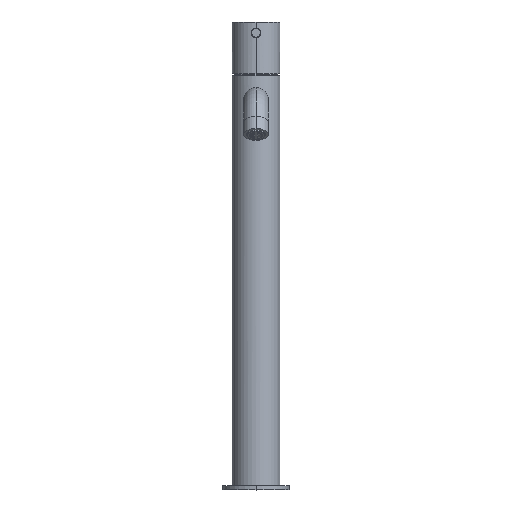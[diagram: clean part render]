
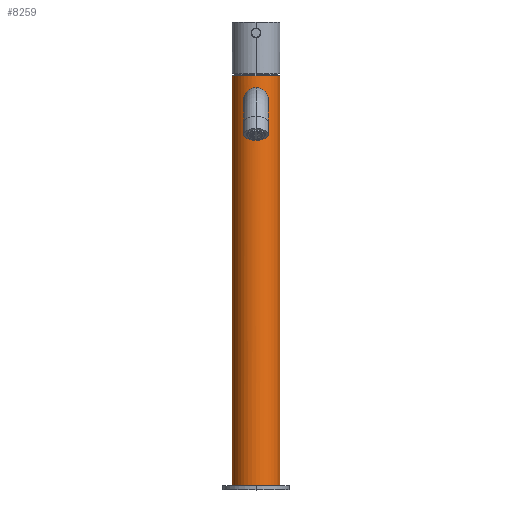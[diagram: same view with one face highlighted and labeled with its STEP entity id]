
A CAD part, top view. The second image highlights one B-rep face of the part: STEP entity #8259.
In plain terms, the highlighted cylindrical face has radius 17.5 mm (diameter 35 mm), a partial arc.
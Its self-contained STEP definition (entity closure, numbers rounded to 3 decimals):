
#685=CARTESIAN_POINT('',(0.,48.,0.));
#686=DIRECTION('',(0.,1.,0.));
#687=DIRECTION('',(-1.,0.,0.));
#688=AXIS2_PLACEMENT_3D('',#685,#686,#687);
#690=CARTESIAN_POINT('',(0.,-252.,0.));
#691=DIRECTION('',(0.,1.,0.));
#692=DIRECTION('',(-1.,0.,0.));
#693=AXIS2_PLACEMENT_3D('',#690,#691,#692);
#695=CARTESIAN_POINT('',(0.,21.,17.5));
#696=CARTESIAN_POINT('',(0.237,21.,17.5));
#697=CARTESIAN_POINT('',(0.711,21.019,17.49));
#698=CARTESIAN_POINT('',(1.425,21.104,17.447));
#699=CARTESIAN_POINT('',(2.132,21.246,17.374));
#700=CARTESIAN_POINT('',(2.836,21.448,17.274));
#701=CARTESIAN_POINT('',(3.527,21.709,17.146));
#702=CARTESIAN_POINT('',(4.206,22.031,16.992));
#703=CARTESIAN_POINT('',(4.868,22.417,16.814));
#704=CARTESIAN_POINT('',(5.501,22.862,16.617));
#705=CARTESIAN_POINT('',(6.102,23.368,16.406));
#706=CARTESIAN_POINT('',(6.658,23.927,16.187));
#707=CARTESIAN_POINT('',(7.163,24.533,15.97));
#708=CARTESIAN_POINT('',(7.609,25.172,15.762));
#709=CARTESIAN_POINT('',(7.993,25.84,15.57));
#710=CARTESIAN_POINT('',(8.312,26.523,15.401));
#711=CARTESIAN_POINT('',(8.568,27.214,15.26));
#712=CARTESIAN_POINT('',(8.764,27.911,15.148));
#713=CARTESIAN_POINT('',(8.901,28.607,15.067));
#714=CARTESIAN_POINT('',(8.982,29.307,15.019));
#715=CARTESIAN_POINT('',(9.009,30.,15.003));
#716=CARTESIAN_POINT('',(8.982,30.693,15.019));
#717=CARTESIAN_POINT('',(8.901,31.393,15.067));
#718=CARTESIAN_POINT('',(8.764,32.089,15.148));
#719=CARTESIAN_POINT('',(8.568,32.786,15.26));
#720=CARTESIAN_POINT('',(8.312,33.477,15.401));
#721=CARTESIAN_POINT('',(7.993,34.161,15.57));
#722=CARTESIAN_POINT('',(7.609,34.828,15.762));
#723=CARTESIAN_POINT('',(7.163,35.468,15.97));
#724=CARTESIAN_POINT('',(6.658,36.073,16.187));
#725=CARTESIAN_POINT('',(6.101,36.632,16.406));
#726=CARTESIAN_POINT('',(5.501,37.138,16.617));
#727=CARTESIAN_POINT('',(4.867,37.583,16.814));
#728=CARTESIAN_POINT('',(4.206,37.969,16.992));
#729=CARTESIAN_POINT('',(3.527,38.291,17.146));
#730=CARTESIAN_POINT('',(2.835,38.552,17.274));
#731=CARTESIAN_POINT('',(2.132,38.754,17.374));
#732=CARTESIAN_POINT('',(1.425,38.896,17.447));
#733=CARTESIAN_POINT('',(0.711,38.981,17.49));
#734=CARTESIAN_POINT('',(0.237,39.,17.5));
#735=CARTESIAN_POINT('',(0.,39.,
17.5));
#737=CARTESIAN_POINT('',(0.,39.,
17.5));
#738=CARTESIAN_POINT('',(-0.237,39.,17.5));
#739=CARTESIAN_POINT('',(-0.711,38.981,17.49));
#740=CARTESIAN_POINT('',(-1.425,38.896,17.447));
#741=CARTESIAN_POINT('',(-2.132,38.754,17.374));
#742=CARTESIAN_POINT('',(-2.836,38.552,17.274));
#743=CARTESIAN_POINT('',(-3.527,38.291,17.146));
#744=CARTESIAN_POINT('',(-4.206,37.969,16.992));
#745=CARTESIAN_POINT('',(-4.868,37.583,16.814));
#746=CARTESIAN_POINT('',(-5.501,37.138,16.617));
#747=CARTESIAN_POINT('',(-6.102,36.632,16.406));
#748=CARTESIAN_POINT('',(-6.658,36.073,16.187));
#749=CARTESIAN_POINT('',(-7.163,35.467,15.97));
#750=CARTESIAN_POINT('',(-7.609,34.828,15.762));
#751=CARTESIAN_POINT('',(-7.993,34.16,15.57));
#752=CARTESIAN_POINT('',(-8.312,33.477,15.401));
#753=CARTESIAN_POINT('',(-8.568,32.786,15.26));
#754=CARTESIAN_POINT('',(-8.764,32.089,15.148));
#755=CARTESIAN_POINT('',(-8.901,31.393,15.067));
#756=CARTESIAN_POINT('',(-8.982,30.693,15.019));
#757=CARTESIAN_POINT('',(-9.009,30.,15.003));
#758=CARTESIAN_POINT('',(-8.982,29.307,15.019));
#759=CARTESIAN_POINT('',(-8.901,28.607,15.067));
#760=CARTESIAN_POINT('',(-8.764,27.911,15.148));
#761=CARTESIAN_POINT('',(-8.568,27.214,15.26));
#762=CARTESIAN_POINT('',(-8.312,26.523,15.401));
#763=CARTESIAN_POINT('',(-7.993,25.839,15.57));
#764=CARTESIAN_POINT('',(-7.609,25.172,15.762));
#765=CARTESIAN_POINT('',(-7.163,24.532,15.97));
#766=CARTESIAN_POINT('',(-6.658,23.927,16.187));
#767=CARTESIAN_POINT('',(-6.101,23.368,16.406));
#768=CARTESIAN_POINT('',(-5.501,22.862,16.617));
#769=CARTESIAN_POINT('',(-4.867,22.417,16.814));
#770=CARTESIAN_POINT('',(-4.206,22.031,16.992));
#771=CARTESIAN_POINT('',(-3.527,21.709,17.146));
#772=CARTESIAN_POINT('',(-2.835,21.448,17.274));
#773=CARTESIAN_POINT('',(-2.132,21.246,17.374));
#774=CARTESIAN_POINT('',(-1.425,21.104,17.447));
#775=CARTESIAN_POINT('',(-0.711,21.019,17.49));
#776=CARTESIAN_POINT('',(-0.237,21.,17.5));
#777=CARTESIAN_POINT('',(0.,21.,17.5));
#784=DIRECTION('',(0.,1.,0.));
#785=VECTOR('',#784,300.);
#786=CARTESIAN_POINT('',(17.5,-252.,0.));
#787=LINE('',#786,#785);
#793=DIRECTION('',(0.,-1.,0.));
#794=VECTOR('',#793,300.);
#795=CARTESIAN_POINT('',(-17.5,48.,0.));
#796=LINE('',#795,#794);
#6369=CARTESIAN_POINT('',(-17.5,48.,0.));
#6370=CARTESIAN_POINT('',(17.5,48.,0.));
#6371=VERTEX_POINT('',#6369);
#6372=VERTEX_POINT('',#6370);
#6385=VERTEX_POINT('',#695);
#6386=VERTEX_POINT('',#735);
#7153=CARTESIAN_POINT('',(-17.5,-252.,0.));
#7154=CARTESIAN_POINT('',(17.5,-252.,0.));
#7155=VERTEX_POINT('',#7153);
#7156=VERTEX_POINT('',#7154);
#8239=CARTESIAN_POINT('',(0.,-2.4,0.));
#8240=DIRECTION('',(0.,1.,0.));
#8241=DIRECTION('',(1.,0.,0.));
#8242=AXIS2_PLACEMENT_3D('',#8239,#8240,#8241);
#8243=CYLINDRICAL_SURFACE('',#8242,17.5);
#8245=ORIENTED_EDGE('',*,*,#8244,.F.);
#8247=ORIENTED_EDGE('',*,*,#8246,.T.);
#8249=ORIENTED_EDGE('',*,*,#8248,.F.);
#8251=ORIENTED_EDGE('',*,*,#8250,.F.);
#8252=EDGE_LOOP('',(#8245,#8247,#8249,#8251));
#8253=FACE_OUTER_BOUND('',#8252,.F.);
#8255=ORIENTED_EDGE('',*,*,#8254,.T.);
#8256=ORIENTED_EDGE('',*,*,#8229,.T.);
#8257=EDGE_LOOP('',(#8255,#8256));
#8258=FACE_BOUND('',#8257,.F.);
#8259=ADVANCED_FACE('',(#8253,#8258),#8243,.T.);
#689=CIRCLE('',#688,17.5);
#694=CIRCLE('',#693,17.5);
#736=B_SPLINE_CURVE_WITH_KNOTS('',3,(#695,#696,#697,#698,#699,#700,#701,#702,
#703,#704,#705,#706,#707,#708,#709,#710,#711,#712,#713,#714,#715,#716,#717,#718,
#719,#720,#721,#722,#723,#724,#725,#726,#727,#728,#729,#730,#731,#732,#733,#734,
#735),.UNSPECIFIED.,.F.,.F.,(4,1,1,1,1,1,1,1,1,1,1,1,1,1,1,1,1,1,1,1,1,1,1,1,1,
1,1,1,1,1,1,1,1,1,1,1,1,1,4),(0.,0.026,0.053,
0.079,0.105,0.132,0.158,
0.184,0.211,0.237,0.263,
0.289,0.316,0.342,0.368,
0.395,0.421,0.447,0.474,0.5,
0.526,0.553,0.579,0.605,
0.632,0.658,0.684,0.711,
0.737,0.763,0.789,0.816,
0.842,0.868,0.895,0.921,
0.947,0.974,1.),.UNSPECIFIED.);
#778=B_SPLINE_CURVE_WITH_KNOTS('',3,(#737,#738,#739,#740,#741,#742,#743,#744,
#745,#746,#747,#748,#749,#750,#751,#752,#753,#754,#755,#756,#757,#758,#759,#760,
#761,#762,#763,#764,#765,#766,#767,#768,#769,#770,#771,#772,#773,#774,#775,#776,
#777),.UNSPECIFIED.,.F.,.F.,(4,1,1,1,1,1,1,1,1,1,1,1,1,1,1,1,1,1,1,1,1,1,1,1,1,
1,1,1,1,1,1,1,1,1,1,1,1,1,4),(0.,0.026,0.053,
0.079,0.105,0.132,0.158,
0.184,0.211,0.237,0.263,
0.289,0.316,0.342,0.368,
0.395,0.421,0.447,0.474,0.5,
0.526,0.553,0.579,0.605,
0.632,0.658,0.684,0.711,
0.737,0.763,0.789,0.816,
0.842,0.868,0.895,0.921,
0.947,0.974,1.),.UNSPECIFIED.);
#8229=EDGE_CURVE('',#6386,#6385,#778,.T.);
#8244=EDGE_CURVE('',#6371,#7155,#796,.T.);
#8246=EDGE_CURVE('',#6371,#6372,#689,.T.);
#8248=EDGE_CURVE('',#7156,#6372,#787,.T.);
#8250=EDGE_CURVE('',#7155,#7156,#694,.T.);
#8254=EDGE_CURVE('',#6385,#6386,#736,.T.);
